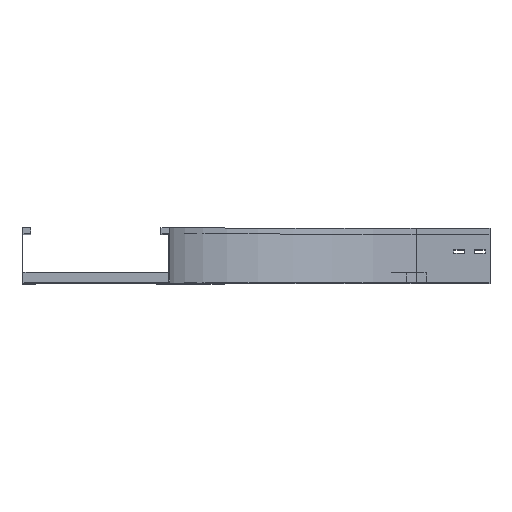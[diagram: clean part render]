
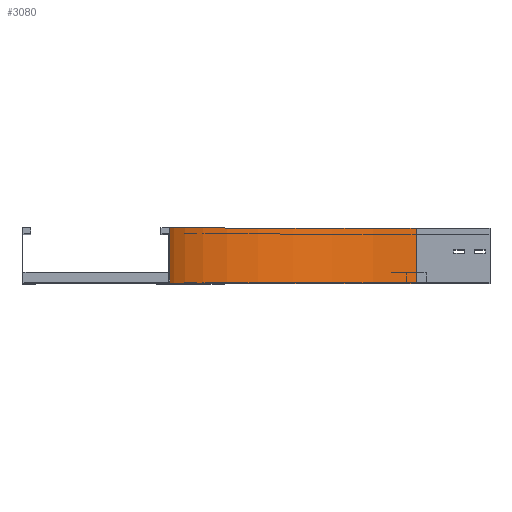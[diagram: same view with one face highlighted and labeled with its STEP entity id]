
A CAD part, top view. The second image highlights one B-rep face of the part: STEP entity #3080.
In plain terms, the highlighted cylindrical face has radius 500 mm (diameter 1000 mm), a partial arc.
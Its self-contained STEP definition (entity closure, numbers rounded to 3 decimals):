
#37 = EDGE_CURVE ( 'NONE', #509, #2661, #2928, .T. ) ;
#387 = CARTESIAN_POINT ( 'NONE',  ( 500., 0., -650. ) ) ;
#509 = VERTEX_POINT ( 'NONE', #2173 ) ;
#519 = FACE_OUTER_BOUND ( 'NONE', #975, .T. ) ;
#567 = AXIS2_PLACEMENT_3D ( 'NONE', #2270, #3182, #2567 ) ;
#760 = DIRECTION ( 'NONE',  ( 0., 1., 0. ) ) ;
#975 = EDGE_LOOP ( 'NONE', ( #3139, #2224, #1192, #2795 ) ) ;
#1192 = ORIENTED_EDGE ( 'NONE', *, *, #3322, .T. ) ;
#1217 = CIRCLE ( 'NONE', #2541, 500. ) ;
#1512 = CYLINDRICAL_SURFACE ( 'NONE', #3311, 500. ) ;
#1618 = EDGE_CURVE ( 'NONE', #3733, #509, #2022, .T. ) ;
#1821 = DIRECTION ( 'NONE',  ( 0., -1., 0. ) ) ;
#1977 = CARTESIAN_POINT ( 'NONE',  ( 500., 0., -650. ) ) ;
#2022 = LINE ( 'NONE', #3349, #2918 ) ;
#2173 = CARTESIAN_POINT ( 'NONE',  ( 0., 112.5, -150. ) ) ;
#2224 = ORIENTED_EDGE ( 'NONE', *, *, #1618, .F. ) ;
#2242 = CARTESIAN_POINT ( 'NONE',  ( 500., 112.5, -650. ) ) ;
#2270 = CARTESIAN_POINT ( 'NONE',  ( 500., 112.5, -150. ) ) ;
#2271 = VECTOR ( 'NONE', #4037, 1000. ) ;
#2380 = CARTESIAN_POINT ( 'NONE',  ( 500., 0., -150. ) ) ;
#2541 = AXIS2_PLACEMENT_3D ( 'NONE', #2380, #4077, #2734 ) ;
#2567 = DIRECTION ( 'NONE',  ( -1., 0., 0. ) ) ;
#2661 = VERTEX_POINT ( 'NONE', #2242 ) ;
#2734 = DIRECTION ( 'NONE',  ( -1., 0., 0. ) ) ;
#2795 = ORIENTED_EDGE ( 'NONE', *, *, #3345, .T. ) ;
#2808 = CARTESIAN_POINT ( 'NONE',  ( 0., 0., -150. ) ) ;
#2918 = VECTOR ( 'NONE', #760, 1000. ) ;
#2928 = CIRCLE ( 'NONE', #567, 500. ) ;
#3080 = ADVANCED_FACE ( 'NONE', ( #519 ), #1512, .F. ) ;
#3139 = ORIENTED_EDGE ( 'NONE', *, *, #37, .F. ) ;
#3179 = VERTEX_POINT ( 'NONE', #1977 ) ;
#3182 = DIRECTION ( 'NONE',  ( 0., -1., 0. ) ) ;
#3311 = AXIS2_PLACEMENT_3D ( 'NONE', #4183, #1821, #3887 ) ;
#3322 = EDGE_CURVE ( 'NONE', #3733, #3179, #1217, .T. ) ;
#3345 = EDGE_CURVE ( 'NONE', #3179, #2661, #3364, .T. ) ;
#3349 = CARTESIAN_POINT ( 'NONE',  ( 0., 0., -150. ) ) ;
#3364 = LINE ( 'NONE', #387, #2271 ) ;
#3733 = VERTEX_POINT ( 'NONE', #2808 ) ;
#3887 = DIRECTION ( 'NONE',  ( 0., 0., -1. ) ) ;
#4037 = DIRECTION ( 'NONE',  ( 0., 1., 0. ) ) ;
#4077 = DIRECTION ( 'NONE',  ( 0., -1., 0. ) ) ;
#4183 = CARTESIAN_POINT ( 'NONE',  ( 500., 0., -150. ) ) ;
